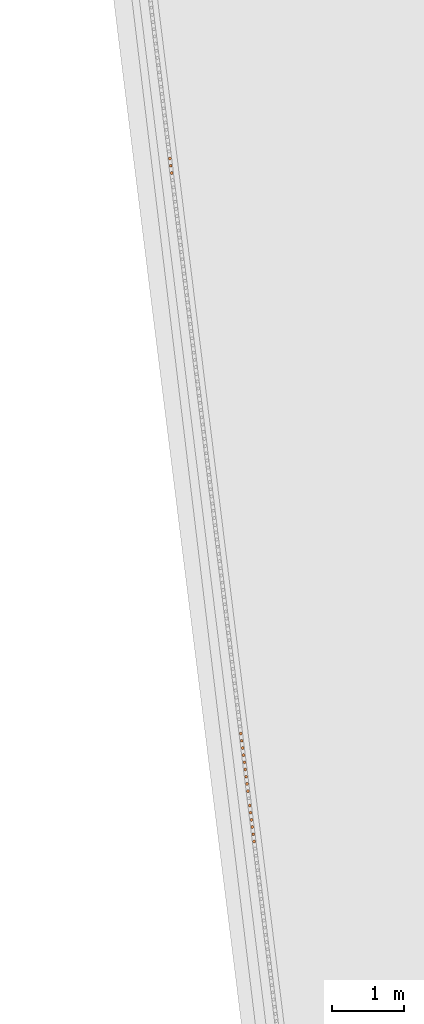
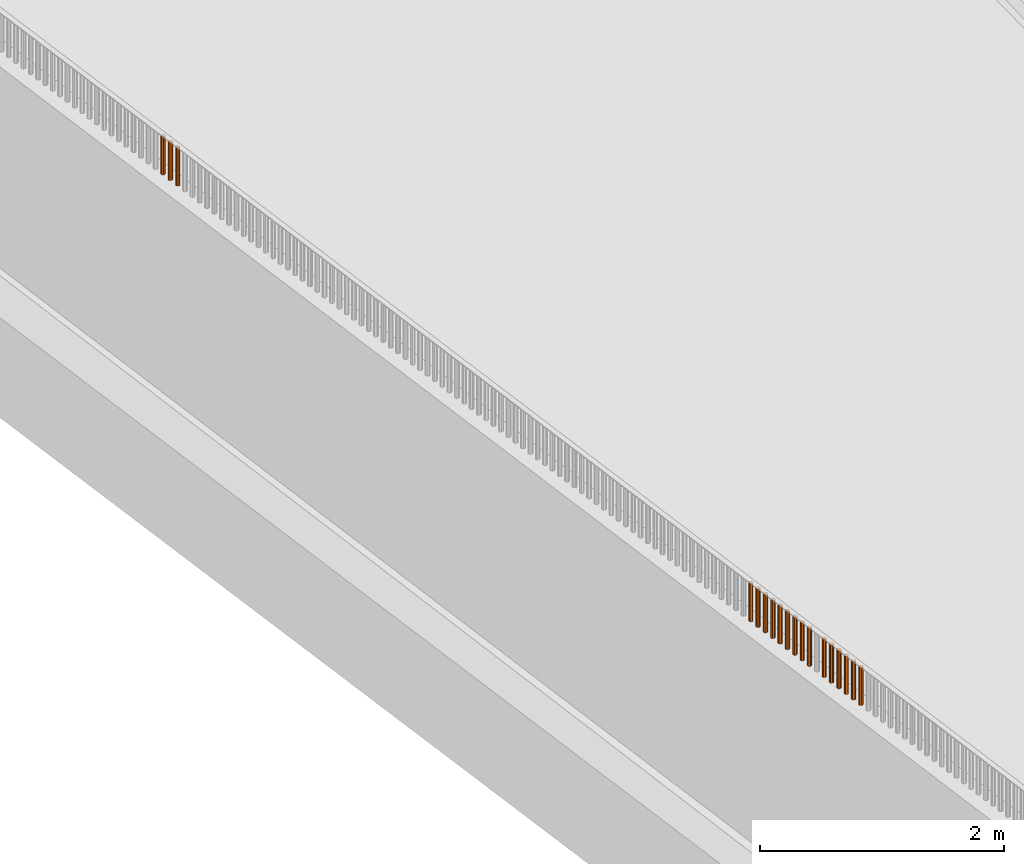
# One storey, part 228 of 1809: 18 proxies, 1 element without a shape of its own.
"""IFC2X3 building model written with IfcOpenShell, lengths in millimetres."""

from ifc_helpers import new_model, entity, si_unit, converted_unit, derived_unit, money_unit, direction, frame, origin_with_axes, place, context, subcontext, project, spatial, faceted_brep, source, transform, mapped, material, type_object, element, aggregate, save


model = new_model("IFC2X3")

# Units and contexts
model_context = context("Model", 3, precision=0.01, world=origin_with_axes(), true_north=direction((0.0, 1.0)))
body_context = subcontext(model_context, "Body", "Model", "MODEL_VIEW")
ifc_project = project(units=[si_unit("LENGTHUNIT", "METRE", prefix="MILLI"), si_unit("AREAUNIT", "SQUARE_METRE"), si_unit("VOLUMEUNIT", "CUBIC_METRE"), converted_unit("PLANEANGLEUNIT", "DEGREE", entity("IfcPlaneAngleMeasure", 0.0174532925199), si_unit("PLANEANGLEUNIT", "RADIAN"), dimensions=[0, 0, 0, 0, 0, 0, 0]), si_unit("SOLIDANGLEUNIT", "STERADIAN"), money_unit("EUR"), converted_unit("TIMEUNIT", "Year", entity("IfcTimeMeasure", 31556926.0), si_unit("TIMEUNIT", "SECOND"), dimensions=[0, 0, 1, 0, 0, 0, 0]), si_unit("MASSUNIT", "GRAM", prefix="KILO"), si_unit("THERMODYNAMICTEMPERATUREUNIT", "DEGREE_CELSIUS"), si_unit("LUMINOUSINTENSITYUNIT", "LUMEN"), si_unit("ENERGYUNIT", "JOULE", prefix="MEGA"), derived_unit("THERMALCONDUCTANCEUNIT", [(si_unit("POWERUNIT", "WATT"), 1), (si_unit("LENGTHUNIT", "METRE"), -1), (si_unit("THERMODYNAMICTEMPERATUREUNIT", "KELVIN"), -1)]), derived_unit("SPECIFICHEATCAPACITYUNIT", [(si_unit("ENERGYUNIT", "JOULE"), 1), (si_unit("MASSUNIT", "GRAM", prefix="KILO"), -1), (si_unit("THERMODYNAMICTEMPERATUREUNIT", "KELVIN"), -1)]), derived_unit("MASSDENSITYUNIT", [(si_unit("MASSUNIT", "GRAM", prefix="KILO"), 1), (si_unit("VOLUMEUNIT", "CUBIC_METRE"), -1)])], contexts=[model_context])

# Site, building, storey
site_placement = place(None, origin_with_axes())
site = spatial("IfcSite", under=ifc_project, at=site_placement, Name="Politse- ja Piirivalveameti ning Päästeameti ühishoone", CompositionType="ELEMENT")
building_placement = place(site_placement, origin_with_axes())
building = spatial("IfcBuilding", under=site, at=building_placement, Name="Politse- ja Piirivalveameti ning Päästeameti ühishoone", CompositionType="ELEMENT")
storey_placement = place(building_placement, origin_with_axes())
storey = spatial("IfcBuildingStorey", under=building, at=storey_placement, Name="Esimene korrus", CompositionType="ELEMENT", Elevation=0.0)

# Proxies
building_element_proxy_type_1 = type_object("IfcBuildingElementProxyType", Name="Railing Type", PredefinedType="NOTDEFINED")
proxy_1_placement = place(storey_placement, frame((-18956.5522504, -53688.4757966, 2100.0), z_axis=(0.0, 0.0, 1.0), x_axis=(1.0, 0.0, 0.0)))
proxy_1 = element("IfcBuildingElementProxy", 1, at=proxy_1_placement, inside=storey, type_object=building_element_proxy_type_1, Name="PIIRDEAED")
ifc_material = material(Name="ET-06_Teras - Konstruktsioon")
building_element_proxy_type_2 = type_object("IfcBuildingElementProxyType", Name="IfcBuildingElementProxy", PredefinedType="NOTDEFINED")
shared_shape_1 = source(origin_with_axes(), body_context, "Body", "Brep", [
    faceted_brep([(0.0, -20.0, 0.0), (3.47296355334, -19.6961550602, 0.0), (3.47296355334, -19.6961550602, 380.000012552), (0.0, -20.0, 380.000012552), (-3.47296355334, -19.6961550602, 0.0), (-6.84040286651, -18.7938524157, 0.0), (-10.0, -17.3205080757, 0.0), (-12.8557521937, -15.3208888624, 0.0), (-15.3208888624, -12.8557521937, 0.0), (-17.3205080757, -10.0, 0.0), (-18.7938524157, -6.84040286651, 0.0), (-19.6961550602, -3.47296355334, 0.0), (-20.0, 0.0, 0.0), (-19.6961550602, 3.47296355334, 0.0), (-18.7938524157, 6.84040286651, 0.0), (-17.3205080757, 10.0, 0.0), (-15.3208888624, 12.8557521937, 0.0), (-12.8557521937, 15.3208888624, 0.0), (-10.0, 17.3205080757, 0.0), (-6.84040286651, 18.7938524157, 0.0), (-3.47296355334, 19.6961550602, 0.0), (0.0, 20.0, 0.0), (3.47296355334, 19.6961550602, 0.0), (6.84040286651, 18.7938524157, 0.0), (10.0, 17.3205080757, 0.0), (12.8557521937, 15.3208888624, 0.0), (15.3208888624, 12.8557521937, 0.0), (17.3205080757, 10.0, 0.0), (18.7938524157, 6.84040286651, 0.0), (19.6961550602, 3.47296355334, 0.0), (20.0, 0.0, 0.0), (19.6961550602, -3.47296355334, 0.0), (18.7938524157, -6.84040286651, 0.0), (17.3205080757, -10.0, 0.0), (15.3208888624, -12.8557521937, 0.0), (12.8557521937, -15.3208888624, 0.0), (10.0, -17.3205080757, 0.0), (6.84040286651, -18.7938524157, 0.0), (6.84040286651, -18.7938524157, 380.000012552), (10.0, -17.3205080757, 380.000012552), (12.8557521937, -15.3208888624, 380.000012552), (15.3208888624, -12.8557521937, 380.000012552), (17.3205080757, -10.0, 380.000012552), (18.7938524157, -6.84040286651, 380.000012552), (19.6961550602, -3.47296355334, 380.000012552), (20.0, 0.0, 380.000012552), (19.6961550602, 3.47296355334, 380.000012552), (18.7938524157, 6.84040286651, 380.000012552), (17.3205080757, 10.0, 380.000012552), (15.3208888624, 12.8557521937, 380.000012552), (12.8557521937, 15.3208888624, 380.000012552), (10.0, 17.3205080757, 380.000012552), (6.84040286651, 18.7938524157, 380.000012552), (3.47296355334, 19.6961550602, 380.000012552), (0.0, 20.0, 380.000012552), (-3.47296355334, 19.6961550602, 380.000012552), (-6.84040286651, 18.7938524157, 380.000012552), (-10.0, 17.3205080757, 380.000012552), (-12.8557521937, 15.3208888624, 380.000012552), (-15.3208888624, 12.8557521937, 380.000012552), (-17.3205080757, 10.0, 380.000012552), (-18.7938524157, 6.84040286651, 380.000012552), (-19.6961550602, 3.47296355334, 380.000012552), (-20.0, 0.0, 380.000012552), (-19.6961550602, -3.47296355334, 380.000012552), (-18.7938524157, -6.84040286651, 380.000012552), (-17.3205080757, -10.0, 380.000012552), (-15.3208888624, -12.8557521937, 380.000012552), (-12.8557521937, -15.3208888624, 380.000012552), (-10.0, -17.3205080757, 380.000012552), (-6.84040286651, -18.7938524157, 380.000012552), (-3.47296355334, -19.6961550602, 380.000012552)], [[[0, 1, 2, 3]], [[0, 4, 5, 6, 7, 8, 9, 10, 11, 12, 13, 14, 15, 16, 17, 18, 19, 20, 21, 22, 23, 24, 25, 26, 27, 28, 29, 30, 31, 32, 33, 34, 35, 36, 37, 1]], [[1, 37, 38, 2]], [[3, 2, 38, 39, 40, 41, 42, 43, 44, 45, 46, 47, 48, 49, 50, 51, 52, 53, 54, 55, 56, 57, 58, 59, 60, 61, 62, 63, 64, 65, 66, 67, 68, 69, 70, 71]], [[4, 0, 3, 71]], [[5, 4, 71, 70]], [[6, 5, 70, 69]], [[7, 6, 69, 68]], [[8, 7, 68, 67]], [[9, 8, 67, 66]], [[10, 9, 66, 65]], [[11, 10, 65, 64]], [[12, 11, 64, 63]], [[13, 12, 63, 62]], [[14, 13, 62, 61]], [[15, 14, 61, 60]], [[16, 15, 60, 59]], [[17, 16, 59, 58]], [[18, 17, 58, 57]], [[19, 18, 57, 56]], [[20, 19, 56, 55]], [[21, 20, 55, 54]], [[22, 21, 54, 53]], [[23, 22, 53, 52]], [[24, 23, 52, 51]], [[25, 24, 51, 50]], [[26, 25, 50, 49]], [[27, 26, 49, 48]], [[28, 27, 48, 47]], [[29, 28, 47, 46]], [[30, 29, 46, 45]], [[31, 30, 45, 44]], [[32, 31, 44, 43]], [[33, 32, 43, 42]], [[34, 33, 42, 41]], [[35, 34, 41, 40]], [[36, 35, 40, 39]], [[37, 36, 39, 38]]]),
])
proxy_2_placement = place(proxy_1_placement, frame((-5837.19644697, 46456.1772836, -1.25517001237e-05), z_axis=(0.0, 0.0, 1.0), x_axis=(1.0, 0.0, 0.0)))
proxy_2 = element("IfcBuildingElementProxy", 2, at=proxy_2_placement, type_object=building_element_proxy_type_2, material=ifc_material, Name="BALUSTER - 001", context=body_context, shape_type="MappedRepresentation", body=[
    mapped(shared_shape_1, transform((0.0, 0.0, 0.0), x_axis=(0.992468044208, 0.122503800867, 0.0), y_axis=(-0.122503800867, 0.992468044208, 0.0), z_axis=(0.0, 0.0, 1.0))),
])
proxy_3_placement = place(proxy_1_placement, frame((-5861.6918568, 46654.6275465, -1.25517001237e-05), z_axis=(0.0, 0.0, 1.0), x_axis=(1.0, 0.0, 0.0)))
proxy_3 = element("IfcBuildingElementProxy", 3, at=proxy_3_placement, type_object=building_element_proxy_type_2, material=ifc_material, Name="BALUSTER - 001", context=body_context, shape_type="MappedRepresentation", body=[
    mapped(shared_shape_1, transform((0.0, 0.0, 0.0), x_axis=(0.992468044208, 0.122503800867, 0.0), y_axis=(-0.122503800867, 0.992468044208, 0.0), z_axis=(0.0, 0.0, 1.0))),
])
proxy_4_placement = place(proxy_1_placement, frame((-5886.18726663, 46853.0778093, -1.25517001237e-05), z_axis=(0.0, 0.0, 1.0), x_axis=(1.0, 0.0, 0.0)))
proxy_4 = element("IfcBuildingElementProxy", 4, at=proxy_4_placement, type_object=building_element_proxy_type_2, material=ifc_material, Name="BALUSTER - 001", context=body_context, shape_type="MappedRepresentation", body=[
    mapped(shared_shape_1, transform((0.0, 0.0, 0.0), x_axis=(0.992468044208, 0.122503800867, 0.0), y_axis=(-0.122503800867, 0.992468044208, 0.0), z_axis=(0.0, 0.0, 1.0))),
])
proxy_5_placement = place(proxy_1_placement, frame((-5910.68267645, 47051.5280722, -1.25517001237e-05), z_axis=(0.0, 0.0, 1.0), x_axis=(1.0, 0.0, 0.0)))
proxy_5 = element("IfcBuildingElementProxy", 5, at=proxy_5_placement, type_object=building_element_proxy_type_2, material=ifc_material, Name="BALUSTER - 001", context=body_context, shape_type="MappedRepresentation", body=[
    mapped(shared_shape_1, transform((0.0, 0.0, 0.0), x_axis=(0.992468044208, 0.122503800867, 0.0), y_axis=(-0.122503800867, 0.992468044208, 0.0), z_axis=(0.0, 0.0, 1.0))),
])
proxy_6_placement = place(proxy_1_placement, frame((-5935.17808628, 47249.978335, -1.25517001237e-05), z_axis=(0.0, 0.0, 1.0), x_axis=(1.0, 0.0, 0.0)))
proxy_6 = element("IfcBuildingElementProxy", 6, at=proxy_6_placement, type_object=building_element_proxy_type_2, material=ifc_material, Name="BALUSTER - 001", context=body_context, shape_type="MappedRepresentation", body=[
    mapped(shared_shape_1, transform((0.0, 0.0, 0.0), x_axis=(0.992468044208, 0.122503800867, 0.0), y_axis=(-0.122503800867, 0.992468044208, 0.0), z_axis=(0.0, 0.0, 1.0))),
])
proxy_7_placement = place(proxy_1_placement, frame((-5959.67349611, 47448.4285979, -1.25517001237e-05), z_axis=(0.0, 0.0, 1.0), x_axis=(1.0, 0.0, 0.0)))
proxy_7 = element("IfcBuildingElementProxy", 7, at=proxy_7_placement, type_object=building_element_proxy_type_2, material=ifc_material, Name="BALUSTER - 001", context=body_context, shape_type="MappedRepresentation", body=[
    mapped(shared_shape_1, transform((0.0, 0.0, 0.0), x_axis=(0.992468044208, 0.122503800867, 0.0), y_axis=(-0.122503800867, 0.992468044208, 0.0), z_axis=(0.0, 0.0, 1.0))),
])
proxy_8_placement = place(proxy_1_placement, frame((-6963.98529898, 55584.8893748, -1.25517001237e-05), z_axis=(0.0, 0.0, 1.0), x_axis=(1.0, 0.0, 0.0)))
proxy_8 = element("IfcBuildingElementProxy", 8, at=proxy_8_placement, type_object=building_element_proxy_type_2, material=ifc_material, Name="BALUSTER - 001", context=body_context, shape_type="MappedRepresentation", body=[
    mapped(shared_shape_1, transform((0.0, 0.0, 0.0), x_axis=(0.992468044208, 0.122503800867, 0.0), y_axis=(-0.122503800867, 0.992468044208, 0.0), z_axis=(0.0, 0.0, 1.0))),
])
shared_shape_2 = source(origin_with_axes(), body_context, "Body", "Brep", [
    faceted_brep([(0.0, -20.0, 0.0), (3.47296355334, -19.6961550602, 0.0), (3.47296355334, -19.6961550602, 380.000012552), (0.0, -20.0, 380.000012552), (-3.47296355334, -19.6961550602, 0.0), (-6.84040286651, -18.7938524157, 0.0), (-10.0, -17.3205080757, 0.0), (-12.8557521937, -15.3208888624, 0.0), (-15.3208888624, -12.8557521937, 0.0), (-17.3205080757, -10.0, 0.0), (-18.7938524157, -6.84040286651, 0.0), (-19.6961550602, -3.47296355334, 0.0), (-20.0, 0.0, 0.0), (-19.6961550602, 3.47296355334, 0.0), (-18.7938524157, 6.84040286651, 0.0), (-17.3205080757, 10.0, 0.0), (-15.3208888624, 12.8557521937, 0.0), (-12.8557521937, 15.3208888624, 0.0), (-10.0, 17.3205080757, 0.0), (-6.84040286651, 18.7938524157, 0.0), (-3.47296355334, 19.6961550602, 0.0), (0.0, 20.0, 0.0), (3.47296355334, 19.6961550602, 0.0), (6.84040286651, 18.7938524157, 0.0), (10.0, 17.3205080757, 0.0), (12.8557521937, 15.3208888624, 0.0), (15.3208888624, 12.8557521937, 0.0), (17.3205080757, 10.0, 0.0), (18.7938524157, 6.84040286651, 0.0), (19.6961550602, 3.47296355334, 0.0), (20.0, 0.0, 0.0), (19.6961550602, -3.47296355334, 0.0), (18.7938524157, -6.84040286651, 0.0), (17.3205080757, -10.0, 0.0), (15.3208888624, -12.8557521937, 0.0), (12.8557521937, -15.3208888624, 0.0), (10.0, -17.3205080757, 0.0), (6.84040286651, -18.7938524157, 0.0), (6.84040286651, -18.7938524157, 380.000012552), (10.0, -17.3205080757, 380.000012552), (12.8557521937, -15.3208888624, 380.000012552), (15.3208888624, -12.8557521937, 380.000012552), (17.3205080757, -10.0, 380.000012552), (18.7938524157, -6.84040286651, 380.000012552), (19.6961550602, -3.47296355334, 380.000012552), (20.0, 0.0, 380.000012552), (19.6961550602, 3.47296355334, 380.000012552), (18.7938524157, 6.84040286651, 380.000012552), (17.3205080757, 10.0, 380.000012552), (15.3208888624, 12.8557521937, 380.000012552), (12.8557521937, 15.3208888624, 380.000012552), (10.0, 17.3205080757, 380.000012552), (6.84040286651, 18.7938524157, 380.000012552), (3.47296355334, 19.6961550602, 380.000012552), (0.0, 20.0, 380.000012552), (-3.47296355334, 19.6961550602, 380.000012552), (-6.84040286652, 18.7938524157, 380.000012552), (-10.0, 17.3205080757, 380.000012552), (-12.8557521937, 15.3208888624, 380.000012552), (-15.3208888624, 12.8557521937, 380.000012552), (-17.3205080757, 10.0, 380.000012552), (-18.7938524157, 6.84040286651, 380.000012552), (-19.6961550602, 3.47296355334, 380.000012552), (-20.0, 0.0, 380.000012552), (-19.6961550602, -3.47296355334, 380.000012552), (-18.7938524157, -6.84040286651, 380.000012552), (-17.3205080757, -10.0, 380.000012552), (-15.3208888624, -12.8557521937, 380.000012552), (-12.8557521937, -15.3208888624, 380.000012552), (-10.0, -17.3205080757, 380.000012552), (-6.84040286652, -18.7938524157, 380.000012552), (-3.47296355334, -19.6961550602, 380.000012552)], [[[0, 1, 2, 3]], [[0, 4, 5, 6, 7, 8, 9, 10, 11, 12, 13, 14, 15, 16, 17, 18, 19, 20, 21, 22, 23, 24, 25, 26, 27, 28, 29, 30, 31, 32, 33, 34, 35, 36, 37, 1]], [[1, 37, 38, 2]], [[3, 2, 38, 39, 40, 41, 42, 43, 44, 45, 46, 47, 48, 49, 50, 51, 52, 53, 54, 55, 56, 57, 58, 59, 60, 61, 62, 63, 64, 65, 66, 67, 68, 69, 70, 71]], [[4, 0, 3, 71]], [[5, 4, 71, 70]], [[6, 5, 70, 69]], [[7, 6, 69, 68]], [[8, 7, 68, 67]], [[9, 8, 67, 66]], [[10, 9, 66, 65]], [[11, 10, 65, 64]], [[12, 11, 64, 63]], [[13, 12, 63, 62]], [[14, 13, 62, 61]], [[15, 14, 61, 60]], [[16, 15, 60, 59]], [[17, 16, 59, 58]], [[18, 17, 58, 57]], [[19, 18, 57, 56]], [[20, 19, 56, 55]], [[21, 20, 55, 54]], [[22, 21, 54, 53]], [[23, 22, 53, 52]], [[24, 23, 52, 51]], [[25, 24, 51, 50]], [[26, 25, 50, 49]], [[27, 26, 49, 48]], [[28, 27, 48, 47]], [[29, 28, 47, 46]], [[30, 29, 46, 45]], [[31, 30, 45, 44]], [[32, 31, 44, 43]], [[33, 32, 43, 42]], [[34, 33, 42, 41]], [[35, 34, 41, 40]], [[36, 35, 40, 39]], [[37, 36, 39, 38]]]),
])
proxy_9_placement = place(proxy_1_placement, frame((-6988.48070881, 55783.3396376, -1.25517001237e-05), z_axis=(0.0, 0.0, 1.0), x_axis=(1.0, 0.0, 0.0)))
proxy_9 = element("IfcBuildingElementProxy", 9, at=proxy_9_placement, type_object=building_element_proxy_type_2, material=ifc_material, Name="BALUSTER - 001", context=body_context, shape_type="MappedRepresentation", body=[
    mapped(shared_shape_2, transform((0.0, 0.0, 0.0), x_axis=(0.992468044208, 0.122503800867, 0.0), y_axis=(-0.122503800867, 0.992468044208, 0.0), z_axis=(0.0, 0.0, 1.0))),
])
shared_shape_3 = source(origin_with_axes(), body_context, "Body", "Brep", [
    faceted_brep([(0.0, -20.0, 0.0), (3.47296355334, -19.6961550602, 0.0), (3.47296355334, -19.6961550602, 380.000012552), (0.0, -20.0, 380.000012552), (-3.47296355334, -19.6961550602, 0.0), (-6.84040286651, -18.7938524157, 0.0), (-10.0, -17.3205080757, 0.0), (-12.8557521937, -15.3208888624, 0.0), (-15.3208888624, -12.8557521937, 0.0), (-17.3205080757, -10.0, 0.0), (-18.7938524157, -6.84040286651, 0.0), (-19.6961550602, -3.47296355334, 0.0), (-20.0, 0.0, 0.0), (-19.6961550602, 3.47296355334, 0.0), (-18.7938524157, 6.84040286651, 0.0), (-17.3205080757, 10.0, 0.0), (-15.3208888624, 12.8557521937, 0.0), (-12.8557521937, 15.3208888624, 0.0), (-10.0, 17.3205080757, 0.0), (-6.84040286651, 18.7938524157, 0.0), (-3.47296355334, 19.6961550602, 0.0), (0.0, 20.0, 0.0), (3.47296355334, 19.6961550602, 0.0), (6.84040286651, 18.7938524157, 0.0), (10.0, 17.3205080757, 0.0), (12.8557521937, 15.3208888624, 0.0), (15.3208888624, 12.8557521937, 0.0), (17.3205080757, 10.0, 0.0), (18.7938524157, 6.84040286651, 0.0), (19.6961550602, 3.47296355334, 0.0), (20.0, 0.0, 0.0), (19.6961550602, -3.47296355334, 0.0), (18.7938524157, -6.84040286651, 0.0), (17.3205080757, -10.0, 0.0), (15.3208888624, -12.8557521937, 0.0), (12.8557521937, -15.3208888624, 0.0), (10.0, -17.3205080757, 0.0), (6.84040286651, -18.7938524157, 0.0), (6.84040286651, -18.7938524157, 380.000012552), (10.0, -17.3205080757, 380.000012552), (12.8557521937, -15.3208888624, 380.000012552), (15.3208888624, -12.8557521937, 380.000012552), (17.3205080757, -10.0, 380.000012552), (18.7938524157, -6.84040286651, 380.000012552), (19.6961550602, -3.47296355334, 380.000012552), (20.0, 0.0, 380.000012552), (19.6961550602, 3.47296355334, 380.000012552), (18.7938524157, 6.84040286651, 380.000012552), (17.3205080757, 10.0, 380.000012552), (15.3208888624, 12.8557521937, 380.000012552), (12.8557521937, 15.3208888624, 380.000012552), (10.0, 17.3205080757, 380.000012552), (6.84040286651, 18.7938524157, 380.000012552), (3.47296355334, 19.6961550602, 380.000012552), (0.0, 20.0, 380.000012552), (-3.47296355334, 19.6961550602, 380.000012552), (-6.84040286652, 18.7938524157, 380.000012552), (-10.0, 17.3205080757, 380.000012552), (-12.8557521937, 15.3208888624, 380.000012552), (-15.3208888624, 12.8557521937, 380.000012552), (-17.3205080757, 10.0, 380.000012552), (-18.7938524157, 6.84040286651, 380.000012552), (-19.6961550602, 3.47296355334, 380.000012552), (-20.0, 0.0, 380.000012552), (-19.6961550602, -3.47296355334, 380.000012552), (-18.7938524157, -6.84040286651, 380.000012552), (-17.3205080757, -10.0, 380.000012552), (-15.3208888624, -12.8557521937, 380.000012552), (-12.8557521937, -15.3208888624, 380.000012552), (-10.0, -17.3205080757, 380.000012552), (-6.84040286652, -18.7938524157, 380.000012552), (-3.47296355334, -19.6961550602, 380.000012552)], [[[0, 1, 2, 3]], [[0, 4, 5, 6, 7, 8, 9, 10, 11, 12, 13, 14, 15, 16, 17, 18, 19, 20, 21, 22, 23, 24, 25, 26, 27, 28, 29, 30, 31, 32, 33, 34, 35, 36, 37, 1]], [[1, 37, 38, 2]], [[3, 2, 38, 39, 40, 41, 42, 43, 44, 45, 46, 47, 48, 49, 50, 51, 52, 53, 54, 55, 56, 57, 58, 59, 60, 61, 62, 63, 64, 65, 66, 67, 68, 69, 70, 71]], [[4, 0, 3, 71]], [[5, 4, 71, 70]], [[6, 5, 70, 69]], [[7, 6, 69, 68]], [[8, 7, 68, 67]], [[9, 8, 67, 66]], [[10, 9, 66, 65]], [[11, 10, 65, 64]], [[12, 11, 64, 63]], [[13, 12, 63, 62]], [[14, 13, 62, 61]], [[15, 14, 61, 60]], [[16, 15, 60, 59]], [[17, 16, 59, 58]], [[18, 17, 58, 57]], [[19, 18, 57, 56]], [[20, 19, 56, 55]], [[21, 20, 55, 54]], [[22, 21, 54, 53]], [[23, 22, 53, 52]], [[24, 23, 52, 51]], [[25, 24, 51, 50]], [[26, 25, 50, 49]], [[27, 26, 49, 48]], [[28, 27, 48, 47]], [[29, 28, 47, 46]], [[30, 29, 46, 45]], [[31, 30, 45, 44]], [[32, 31, 44, 43]], [[33, 32, 43, 42]], [[34, 33, 42, 41]], [[35, 34, 41, 40]], [[36, 35, 40, 39]], [[37, 36, 39, 38]]]),
])
proxy_10_placement = place(proxy_1_placement, frame((-5824.94874206, 46356.9521522, -1.25517001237e-05), z_axis=(0.0, 0.0, 1.0), x_axis=(1.0, 0.0, 0.0)))
proxy_10 = element("IfcBuildingElementProxy", 10, at=proxy_10_placement, type_object=building_element_proxy_type_2, material=ifc_material, Name="BALUSTER - 001", context=body_context, shape_type="MappedRepresentation", body=[
    mapped(shared_shape_3, transform((0.0, 0.0, 0.0), x_axis=(0.992468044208, 0.122503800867, 0.0), y_axis=(-0.122503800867, 0.992468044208, 0.0), z_axis=(0.0, 0.0, 1.0))),
])
proxy_11_placement = place(proxy_1_placement, frame((-5849.44415189, 46555.4024151, -1.25517001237e-05), z_axis=(0.0, 0.0, 1.0), x_axis=(1.0, 0.0, 0.0)))
proxy_11 = element("IfcBuildingElementProxy", 11, at=proxy_11_placement, type_object=building_element_proxy_type_2, material=ifc_material, Name="BALUSTER - 001", context=body_context, shape_type="MappedRepresentation", body=[
    mapped(shared_shape_3, transform((0.0, 0.0, 0.0), x_axis=(0.992468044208, 0.122503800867, 0.0), y_axis=(-0.122503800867, 0.992468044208, 0.0), z_axis=(0.0, 0.0, 1.0))),
])
shared_shape_4 = source(origin_with_axes(), body_context, "Body", "Brep", [
    faceted_brep([(0.0, -20.0, 0.0), (3.47296355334, -19.6961550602, 0.0), (3.47296355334, -19.6961550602, 380.000012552), (0.0, -20.0, 380.000012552), (-3.47296355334, -19.6961550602, 0.0), (-6.84040286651, -18.7938524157, 0.0), (-10.0, -17.3205080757, 0.0), (-12.8557521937, -15.3208888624, 0.0), (-15.3208888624, -12.8557521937, 0.0), (-17.3205080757, -10.0, 0.0), (-18.7938524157, -6.84040286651, 0.0), (-19.6961550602, -3.47296355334, 0.0), (-20.0, 0.0, 0.0), (-19.6961550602, 3.47296355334, 0.0), (-18.7938524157, 6.84040286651, 0.0), (-17.3205080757, 10.0, 0.0), (-15.3208888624, 12.8557521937, 0.0), (-12.8557521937, 15.3208888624, 0.0), (-10.0, 17.3205080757, 0.0), (-6.84040286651, 18.7938524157, 0.0), (-3.47296355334, 19.6961550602, 0.0), (0.0, 20.0, 0.0), (3.47296355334, 19.6961550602, 0.0), (6.84040286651, 18.7938524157, 0.0), (10.0, 17.3205080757, 0.0), (12.8557521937, 15.3208888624, 0.0), (15.3208888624, 12.8557521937, 0.0), (17.3205080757, 10.0, 0.0), (18.7938524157, 6.84040286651, 0.0), (19.6961550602, 3.47296355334, 0.0), (20.0, 0.0, 0.0), (19.6961550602, -3.47296355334, 0.0), (18.7938524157, -6.84040286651, 0.0), (17.3205080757, -10.0, 0.0), (15.3208888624, -12.8557521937, 0.0), (12.8557521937, -15.3208888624, 0.0), (10.0, -17.3205080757, 0.0), (6.84040286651, -18.7938524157, 0.0), (6.84040286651, -18.7938524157, 380.000012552), (10.0, -17.3205080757, 380.000012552), (12.8557521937, -15.3208888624, 380.000012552), (15.3208888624, -12.8557521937, 380.000012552), (17.3205080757, -10.0, 380.000012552), (18.7938524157, -6.84040286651, 380.000012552), (19.6961550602, -3.47296355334, 380.000012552), (20.0, 0.0, 380.000012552), (19.6961550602, 3.47296355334, 380.000012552), (18.7938524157, 6.84040286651, 380.000012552), (17.3205080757, 10.0, 380.000012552), (15.3208888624, 12.8557521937, 380.000012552), (12.8557521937, 15.3208888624, 380.000012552), (10.0, 17.3205080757, 380.000012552), (6.84040286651, 18.7938524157, 380.000012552), (3.47296355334, 19.6961550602, 380.000012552), (0.0, 20.0, 380.000012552), (-3.47296355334, 19.6961550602, 380.000012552), (-6.84040286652, 18.7938524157, 380.000012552), (-10.0, 17.3205080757, 380.000012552), (-12.8557521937, 15.3208888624, 380.000012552), (-15.3208888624, 12.8557521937, 380.000012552), (-17.3205080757, 10.0, 380.000012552), (-18.7938524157, 6.84040286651, 380.000012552), (-19.6961550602, 3.47296355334, 380.000012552), (-20.0, 0.0, 380.000012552), (-19.6961550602, -3.47296355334, 380.000012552), (-18.7938524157, -6.84040286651, 380.000012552), (-17.3205080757, -10.0, 380.000012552), (-15.3208888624, -12.8557521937, 380.000012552), (-12.8557521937, -15.3208888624, 380.000012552), (-10.0, -17.3205080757, 380.000012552), (-6.84040286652, -18.7938524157, 380.000012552), (-3.47296355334, -19.6961550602, 380.000012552)], [[[0, 1, 2, 3]], [[0, 4, 5, 6, 7, 8, 9, 10, 11, 12, 13, 14, 15, 16, 17, 18, 19, 20, 21, 22, 23, 24, 25, 26, 27, 28, 29, 30, 31, 32, 33, 34, 35, 36, 37, 1]], [[1, 37, 38, 2]], [[3, 2, 38, 39, 40, 41, 42, 43, 44, 45, 46, 47, 48, 49, 50, 51, 52, 53, 54, 55, 56, 57, 58, 59, 60, 61, 62, 63, 64, 65, 66, 67, 68, 69, 70, 71]], [[4, 0, 3, 71]], [[5, 4, 71, 70]], [[6, 5, 70, 69]], [[7, 6, 69, 68]], [[8, 7, 68, 67]], [[9, 8, 67, 66]], [[10, 9, 66, 65]], [[11, 10, 65, 64]], [[12, 11, 64, 63]], [[13, 12, 63, 62]], [[14, 13, 62, 61]], [[15, 14, 61, 60]], [[16, 15, 60, 59]], [[17, 16, 59, 58]], [[18, 17, 58, 57]], [[19, 18, 57, 56]], [[20, 19, 56, 55]], [[21, 20, 55, 54]], [[22, 21, 54, 53]], [[23, 22, 53, 52]], [[24, 23, 52, 51]], [[25, 24, 51, 50]], [[26, 25, 50, 49]], [[27, 26, 49, 48]], [[28, 27, 48, 47]], [[29, 28, 47, 46]], [[30, 29, 46, 45]], [[31, 30, 45, 44]], [[32, 31, 44, 43]], [[33, 32, 43, 42]], [[34, 33, 42, 41]], [[35, 34, 41, 40]], [[36, 35, 40, 39]], [[37, 36, 39, 38]]]),
])
proxy_12_placement = place(proxy_1_placement, frame((-5873.93956171, 46753.8526779, -1.25517001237e-05), z_axis=(0.0, 0.0, 1.0), x_axis=(1.0, 0.0, 0.0)))
proxy_12 = element("IfcBuildingElementProxy", 12, at=proxy_12_placement, type_object=building_element_proxy_type_2, material=ifc_material, Name="BALUSTER - 001", context=body_context, shape_type="MappedRepresentation", body=[
    mapped(shared_shape_4, transform((0.0, 0.0, 0.0), x_axis=(0.992468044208, 0.122503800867, 0.0), y_axis=(-0.122503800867, 0.992468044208, 0.0), z_axis=(0.0, 0.0, 1.0))),
])
proxy_13_placement = place(proxy_1_placement, frame((-6976.23300389, 55684.1145062, -1.25517001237e-05), z_axis=(0.0, 0.0, 1.0), x_axis=(1.0, 0.0, 0.0)))
proxy_13 = element("IfcBuildingElementProxy", 13, at=proxy_13_placement, type_object=building_element_proxy_type_2, material=ifc_material, Name="BALUSTER - 001", context=body_context, shape_type="MappedRepresentation", body=[
    mapped(shared_shape_4, transform((0.0, 0.0, 0.0), x_axis=(0.992468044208, 0.122503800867, 0.0), y_axis=(-0.122503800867, 0.992468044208, 0.0), z_axis=(0.0, 0.0, 1.0))),
])
shared_shape_5 = source(origin_with_axes(), body_context, "Body", "Brep", [
    faceted_brep([(0.0, -20.0, 0.0), (3.47296355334, -19.6961550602, 0.0), (3.47296355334, -19.6961550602, 380.000012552), (0.0, -20.0, 380.000012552), (-3.47296355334, -19.6961550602, 0.0), (-6.84040286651, -18.7938524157, 0.0), (-10.0, -17.3205080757, 0.0), (-12.8557521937, -15.3208888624, 0.0), (-15.3208888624, -12.8557521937, 0.0), (-17.3205080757, -10.0, 0.0), (-18.7938524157, -6.84040286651, 0.0), (-19.6961550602, -3.47296355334, 0.0), (-20.0, 0.0, 0.0), (-19.6961550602, 3.47296355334, 0.0), (-18.7938524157, 6.84040286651, 0.0), (-17.3205080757, 10.0, 0.0), (-15.3208888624, 12.8557521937, 0.0), (-12.8557521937, 15.3208888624, 0.0), (-10.0, 17.3205080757, 0.0), (-6.84040286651, 18.7938524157, 0.0), (-3.47296355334, 19.6961550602, 0.0), (0.0, 20.0, 0.0), (3.47296355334, 19.6961550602, 0.0), (6.84040286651, 18.7938524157, 0.0), (10.0, 17.3205080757, 0.0), (12.8557521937, 15.3208888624, 0.0), (15.3208888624, 12.8557521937, 0.0), (17.3205080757, 10.0, 0.0), (18.7938524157, 6.84040286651, 0.0), (19.6961550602, 3.47296355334, 0.0), (20.0, 0.0, 0.0), (19.6961550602, -3.47296355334, 0.0), (18.7938524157, -6.84040286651, 0.0), (17.3205080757, -10.0, 0.0), (15.3208888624, -12.8557521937, 0.0), (12.8557521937, -15.3208888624, 0.0), (10.0, -17.3205080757, 0.0), (6.84040286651, -18.7938524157, 0.0), (6.84040286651, -18.7938524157, 380.000012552), (10.0, -17.3205080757, 380.000012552), (12.8557521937, -15.3208888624, 380.000012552), (15.3208888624, -12.8557521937, 380.000012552), (17.3205080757, -10.0, 380.000012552), (18.7938524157, -6.84040286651, 380.000012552), (19.6961550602, -3.47296355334, 380.000012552), (20.0, 0.0, 380.000012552), (19.6961550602, 3.47296355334, 380.000012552), (18.7938524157, 6.84040286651, 380.000012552), (17.3205080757, 10.0, 380.000012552), (15.3208888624, 12.8557521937, 380.000012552), (12.8557521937, 15.3208888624, 380.000012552), (10.0, 17.3205080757, 380.000012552), (6.84040286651, 18.7938524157, 380.000012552), (3.47296355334, 19.6961550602, 380.000012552), (0.0, 20.0, 380.000012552), (-3.47296355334, 19.6961550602, 380.000012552), (-6.84040286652, 18.7938524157, 380.000012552), (-10.0, 17.3205080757, 380.000012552), (-12.8557521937, 15.3208888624, 380.000012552), (-15.3208888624, 12.8557521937, 380.000012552), (-17.3205080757, 10.0, 380.000012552), (-18.7938524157, 6.84040286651, 380.000012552), (-19.6961550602, 3.47296355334, 380.000012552), (-20.0, 0.0, 380.000012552), (-19.6961550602, -3.47296355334, 380.000012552), (-18.7938524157, -6.84040286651, 380.000012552), (-17.3205080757, -10.0, 380.000012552), (-15.3208888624, -12.8557521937, 380.000012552), (-12.8557521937, -15.3208888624, 380.000012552), (-10.0, -17.3205080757, 380.000012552), (-6.84040286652, -18.7938524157, 380.000012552), (-3.47296355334, -19.6961550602, 380.000012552)], [[[0, 1, 2, 3]], [[0, 4, 5, 6, 7, 8, 9, 10, 11, 12, 13, 14, 15, 16, 17, 18, 19, 20, 21, 22, 23, 24, 25, 26, 27, 28, 29, 30, 31, 32, 33, 34, 35, 36, 37, 1]], [[1, 37, 38, 2]], [[3, 2, 38, 39, 40, 41, 42, 43, 44, 45, 46, 47, 48, 49, 50, 51, 52, 53, 54, 55, 56, 57, 58, 59, 60, 61, 62, 63, 64, 65, 66, 67, 68, 69, 70, 71]], [[4, 0, 3, 71]], [[5, 4, 71, 70]], [[6, 5, 70, 69]], [[7, 6, 69, 68]], [[8, 7, 68, 67]], [[9, 8, 67, 66]], [[10, 9, 66, 65]], [[11, 10, 65, 64]], [[12, 11, 64, 63]], [[13, 12, 63, 62]], [[14, 13, 62, 61]], [[15, 14, 61, 60]], [[16, 15, 60, 59]], [[17, 16, 59, 58]], [[18, 17, 58, 57]], [[19, 18, 57, 56]], [[20, 19, 56, 55]], [[21, 20, 55, 54]], [[22, 21, 54, 53]], [[23, 22, 53, 52]], [[24, 23, 52, 51]], [[25, 24, 51, 50]], [[26, 25, 50, 49]], [[27, 26, 49, 48]], [[28, 27, 48, 47]], [[29, 28, 47, 46]], [[30, 29, 46, 45]], [[31, 30, 45, 44]], [[32, 31, 44, 43]], [[33, 32, 43, 42]], [[34, 33, 42, 41]], [[35, 34, 41, 40]], [[36, 35, 40, 39]], [[37, 36, 39, 38]]]),
])
proxy_14_placement = place(proxy_1_placement, frame((-5922.93038137, 47150.7532036, -1.25517001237e-05), z_axis=(0.0, 0.0, 1.0), x_axis=(1.0, 0.0, 0.0)))
proxy_14 = element("IfcBuildingElementProxy", 14, at=proxy_14_placement, type_object=building_element_proxy_type_2, material=ifc_material, Name="BALUSTER - 001", context=body_context, shape_type="MappedRepresentation", body=[
    mapped(shared_shape_5, transform((0.0, 0.0, 0.0), x_axis=(0.992468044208, 0.122503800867, 0.0), y_axis=(-0.122503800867, 0.992468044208, 0.0), z_axis=(0.0, 0.0, 1.0))),
])
proxy_15_placement = place(proxy_1_placement, frame((-5947.42579119, 47349.2034665, -1.25517001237e-05), z_axis=(0.0, 0.0, 1.0), x_axis=(1.0, 0.0, 0.0)))
proxy_15 = element("IfcBuildingElementProxy", 15, at=proxy_15_placement, type_object=building_element_proxy_type_2, material=ifc_material, Name="BALUSTER - 001", context=body_context, shape_type="MappedRepresentation", body=[
    mapped(shared_shape_5, transform((0.0, 0.0, 0.0), x_axis=(0.992468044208, 0.122503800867, 0.0), y_axis=(-0.122503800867, 0.992468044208, 0.0), z_axis=(0.0, 0.0, 1.0))),
])
proxy_16_placement = place(proxy_1_placement, frame((-5971.92120102, 47547.6537293, -1.25517001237e-05), z_axis=(0.0, 0.0, 1.0), x_axis=(1.0, 0.0, 0.0)))
proxy_16 = element("IfcBuildingElementProxy", 16, at=proxy_16_placement, type_object=building_element_proxy_type_2, material=ifc_material, Name="BALUSTER - 001", context=body_context, shape_type="MappedRepresentation", body=[
    mapped(shared_shape_5, transform((0.0, 0.0, 0.0), x_axis=(0.992468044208, 0.122503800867, 0.0), y_axis=(-0.122503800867, 0.992468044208, 0.0), z_axis=(0.0, 0.0, 1.0))),
])
proxy_17_placement = place(proxy_1_placement, frame((-5984.16890593, 47646.8788607, -1.25517001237e-05), z_axis=(0.0, 0.0, 1.0), x_axis=(1.0, 0.0, 0.0)))
proxy_17 = element("IfcBuildingElementProxy", 17, at=proxy_17_placement, type_object=building_element_proxy_type_2, material=ifc_material, Name="BALUSTER - 001", context=body_context, shape_type="MappedRepresentation", body=[
    mapped(shared_shape_5, transform((0.0, 0.0, 0.0), x_axis=(0.992468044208, 0.122503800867, 0.0), y_axis=(-0.122503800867, 0.992468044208, 0.0), z_axis=(0.0, 0.0, 1.0))),
])
proxy_18_placement = place(proxy_1_placement, frame((-5996.41661085, 47746.1039922, -1.25517001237e-05), z_axis=(0.0, 0.0, 1.0), x_axis=(1.0, 0.0, 0.0)))
proxy_18 = element("IfcBuildingElementProxy", 18, at=proxy_18_placement, type_object=building_element_proxy_type_2, material=ifc_material, Name="BALUSTER - 001", context=body_context, shape_type="MappedRepresentation", body=[
    mapped(shared_shape_5, transform((0.0, 0.0, 0.0), x_axis=(0.992468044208, 0.122503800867, 0.0), y_axis=(-0.122503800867, 0.992468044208, 0.0), z_axis=(0.0, 0.0, 1.0))),
])
proxy_19_placement = place(proxy_1_placement, frame((-6008.66431576, 47845.3291236, -1.25517001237e-05), z_axis=(0.0, 0.0, 1.0), x_axis=(1.0, 0.0, 0.0)))
proxy_19 = element("IfcBuildingElementProxy", 19, at=proxy_19_placement, type_object=building_element_proxy_type_2, material=ifc_material, Name="BALUSTER - 001", context=body_context, shape_type="MappedRepresentation", body=[
    mapped(shared_shape_5, transform((0.0, 0.0, 0.0), x_axis=(0.992468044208, 0.122503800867, 0.0), y_axis=(-0.122503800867, 0.992468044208, 0.0), z_axis=(0.0, 0.0, 1.0))),
])
aggregate(proxy_1, [proxy_10, proxy_2, proxy_11, proxy_3, proxy_12, proxy_4, proxy_5, proxy_14, proxy_6, proxy_15, proxy_7, proxy_16, proxy_17, proxy_18, proxy_19, proxy_8, proxy_13, proxy_9])

save(model, "model.ifc")
